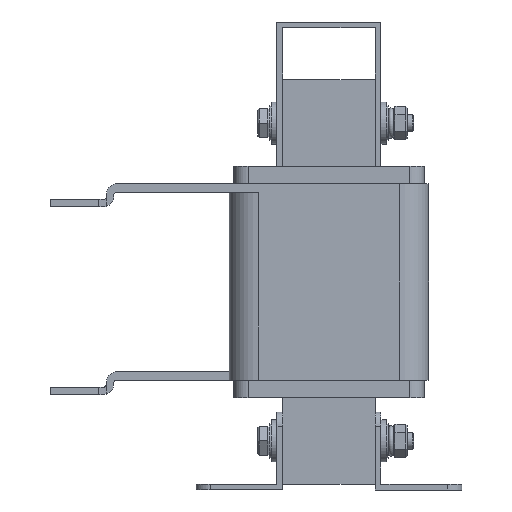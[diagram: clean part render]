
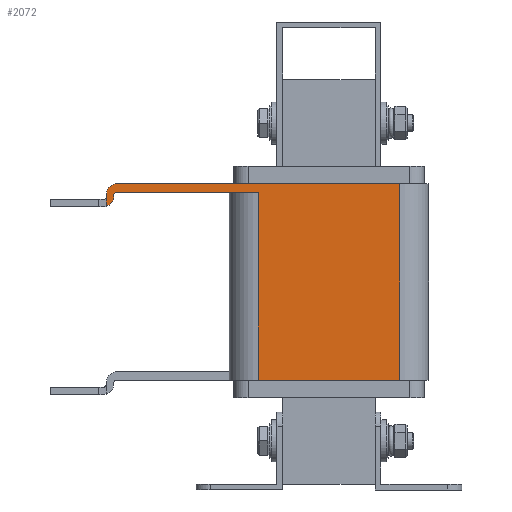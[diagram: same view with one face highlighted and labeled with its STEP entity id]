
A CAD part, left-side view. The second image highlights one B-rep face of the part: STEP entity #2072.
In plain terms, the highlighted planar face has unit normal (-1, 0, 0).
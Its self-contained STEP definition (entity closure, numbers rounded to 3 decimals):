
#2072=ADVANCED_FACE('',(#2610),#2612,.T.);
#2610=FACE_BOUND('',#2611,.T.);
#2611=EDGE_LOOP('',(#3843,#3844,#3845,#3846,#3847,#3848,#3849,#3850,#3851,#3852,
#3853));
#2612=PLANE('',#2613);
#2613=AXIS2_PLACEMENT_3D('',#2614,#2615,#2616);
#2614=CARTESIAN_POINT('',(-33.5,24.5,0.));
#2615=DIRECTION('',(-1.,0.,0.));
#2616=DIRECTION('',(0.,-1.,0.));
#3843=ORIENTED_EDGE('',*,*,#4521,.F.);
#3844=ORIENTED_EDGE('',*,*,#4522,.F.);
#3845=ORIENTED_EDGE('',*,*,#4523,.F.);
#3846=ORIENTED_EDGE('',*,*,#4524,.F.);
#3847=ORIENTED_EDGE('',*,*,#4525,.F.);
#3848=ORIENTED_EDGE('',*,*,#4526,.T.);
#3849=ORIENTED_EDGE('',*,*,#4527,.T.);
#3850=ORIENTED_EDGE('',*,*,#4528,.T.);
#3851=ORIENTED_EDGE('',*,*,#4529,.F.);
#3852=ORIENTED_EDGE('',*,*,#4530,.F.);
#3853=ORIENTED_EDGE('',*,*,#4531,.F.);
#4521=EDGE_CURVE('',#5034,#5035,#5036,.F.);
#4522=EDGE_CURVE('',#5037,#5034,#5038,.T.);
#4523=EDGE_CURVE('',#5039,#5037,#5040,.F.);
#4524=EDGE_CURVE('',#5041,#5039,#5042,.T.);
#4525=EDGE_CURVE('',#5043,#5041,#5044,.T.);
#4526=EDGE_CURVE('',#5043,#5045,#5046,.T.);
#4527=EDGE_CURVE('',#5045,#5047,#5048,.T.);
#4528=EDGE_CURVE('',#5047,#5049,#5050,.T.);
#4529=EDGE_CURVE('',#5051,#5049,#5052,.F.);
#4530=EDGE_CURVE('',#5053,#5051,#5054,.T.);
#4531=EDGE_CURVE('',#5035,#5053,#5055,.T.);
#5034=VERTEX_POINT('',#6052);
#5035=VERTEX_POINT('',#6053);
#5036=CIRCLE('',#6054,3.6);
#5037=VERTEX_POINT('',#6058);
#5038=LINE('',#6059,#6060);
#5039=VERTEX_POINT('',#6062);
#5040=CIRCLE('',#6063,1.);
#5041=VERTEX_POINT('',#6067);
#5042=LINE('',#6068,#6069);
#5043=VERTEX_POINT('',#6071);
#5044=LINE('',#6072,#6073);
#5045=VERTEX_POINT('',#6075);
#5046=LINE('',#6076,#6077);
#5047=VERTEX_POINT('',#6079);
#5048=LINE('',#6080,#6081);
#5049=VERTEX_POINT('',#6083);
#5050=LINE('',#6084,#6085);
#5051=VERTEX_POINT('',#6087);
#5052=CIRCLE('',#6088,4.);
#5053=VERTEX_POINT('',#6092);
#5054=LINE('',#6093,#6094);
#5055=LINE('',#6096,#6097);
#6052=CARTESIAN_POINT('',(-33.5,74.5,63.6));
#6053=CARTESIAN_POINT('',(-33.5,77.1,60.142));
#6054=AXIS2_PLACEMENT_3D('',#6055,#6056,#6057);
#6055=CARTESIAN_POINT('',(-33.5,78.1,63.6));
#6056=DIRECTION('',(-1.,0.,0.));
#6057=DIRECTION('',(0.,-0.278,-0.961));
#6058=CARTESIAN_POINT('',(-33.5,74.5,64.));
#6059=CARTESIAN_POINT('',(-33.5,74.5,64.));
#6060=VECTOR('',#6061,1.);
#6061=DIRECTION('',(0.,0.,-1.));
#6062=CARTESIAN_POINT('',(-33.5,73.5,65.));
#6063=AXIS2_PLACEMENT_3D('',#6064,#6065,#6066);
#6064=CARTESIAN_POINT('',(-33.5,73.5,64.));
#6065=DIRECTION('',(1.,0.,-0.));
#6066=DIRECTION('',(0.,1.,0.));
#6067=CARTESIAN_POINT('',(-33.5,24.5,65.));
#6068=CARTESIAN_POINT('',(-33.5,24.5,65.));
#6069=VECTOR('',#6070,1.);
#6070=DIRECTION('',(0.,1.,0.));
#6071=CARTESIAN_POINT('',(-33.5,24.5,0.));
#6072=CARTESIAN_POINT('',(-33.5,24.5,0.));
#6073=VECTOR('',#6074,1.);
#6074=DIRECTION('',(0.,0.,1.));
#6075=CARTESIAN_POINT('',(-33.5,-24.5,0.));
#6076=CARTESIAN_POINT('',(-33.5,24.5,0.));
#6077=VECTOR('',#6078,1.);
#6078=DIRECTION('',(0.,-1.,0.));
#6079=CARTESIAN_POINT('',(-33.5,-24.5,68.));
#6080=CARTESIAN_POINT('',(-33.5,-24.5,0.));
#6081=VECTOR('',#6082,1.);
#6082=DIRECTION('',(0.,0.,1.));
#6083=CARTESIAN_POINT('',(-33.5,73.1,68.));
#6084=CARTESIAN_POINT('',(-33.5,-24.5,68.));
#6085=VECTOR('',#6086,1.);
#6086=DIRECTION('',(0.,1.,0.));
#6087=CARTESIAN_POINT('',(-33.5,77.1,64.));
#6088=AXIS2_PLACEMENT_3D('',#6089,#6090,#6091);
#6089=CARTESIAN_POINT('',(-33.5,73.1,64.));
#6090=DIRECTION('',(-1.,0.,0.));
#6091=DIRECTION('',(0.,0.,1.));
#6092=CARTESIAN_POINT('',(-33.5,77.1,63.6));
#6093=CARTESIAN_POINT('',(-33.5,77.1,63.6));
#6094=VECTOR('',#6095,1.);
#6095=DIRECTION('',(0.,0.,1.));
#6096=CARTESIAN_POINT('',(-33.5,77.1,60.142));
#6097=VECTOR('',#6098,1.);
#6098=DIRECTION('',(0.,0.,1.));
